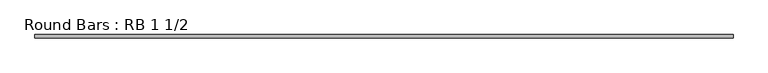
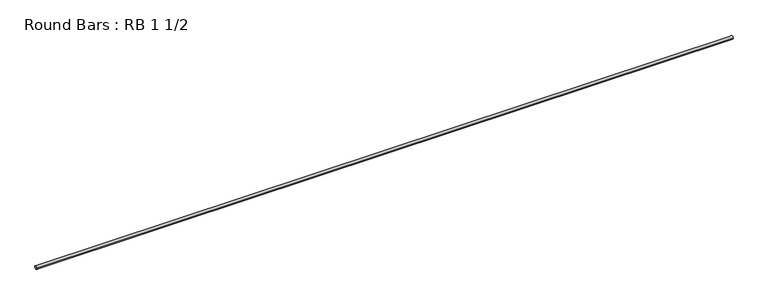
"""IFC4 building model written with IfcOpenShell, lengths in millimetres: member geometry, Round Bars : RB 1 1/2."""

import ifcopenshell
import ifcopenshell.guid

model = None  # the IFC model being written
_history = None  # IfcOwnerHistory: only IFC2X3 demands one
_inside = {}  # id of a spatial element -> (the spatial element, [elements in it])
_under = {}  # id of a project, library or spatial element -> (it, [spatial elements below it])
_declared = {}  # id of a project -> (the project, [libraries it declares])
_typed = {}  # id of a type object -> (the type object, [elements of that type])
_made_of = {}  # id of a material, layer set ... -> (it, [elements and type objects made of it])


def new_model(schema):
    """Start an empty IFC model of exactly this schema.

    Asked for "IFC4X3", IfcOpenShell would pick the latest addendum, in which some entities
    have other attributes; the version numbers below select the first issue.
    IFC2X3 requires an IfcOwnerHistory on every rooted entity: one is made here for all.
    """
    global model, _history
    if schema == "IFC4X3":
        model = ifcopenshell.file(schema_version=(4, 3, 0, 0))
    else:
        model = ifcopenshell.file(schema=schema)
    _inside.clear()
    _under.clear()
    _declared.clear()
    _typed.clear()
    _made_of.clear()
    _history = None
    if model.schema == "IFC2X3":
        org = make("IfcOrganization", Name="unknown")
        user = make(
            "IfcPersonAndOrganization",
            ThePerson=make("IfcPerson", FamilyName="unknown"),
            TheOrganization=org,
        )
        app = make(
            "IfcApplication",
            ApplicationDeveloper=org,
            Version="unknown",
            ApplicationFullName="unknown",
            ApplicationIdentifier="unknown",
        )
        _history = make(
            "IfcOwnerHistory",
            OwningUser=user,
            OwningApplication=app,
            ChangeAction="ADDED",
            CreationDate=0,
        )
    return model


def make(cls, **values):
    """One entity of the class cls with the attributes given. An attribute that is None is left unset."""
    return model.create_entity(
        cls, **{name: value for name, value in values.items() if value is not None}
    )


def rooted(cls, **values):
    """An entity with a GlobalId (a new one), such as an element, a storey or a relation."""
    return make(cls, GlobalId=ifcopenshell.guid.new(), OwnerHistory=_history, **values)


def si_unit(unit_type, name, prefix=None):
    """IfcSIUnit, for example si_unit("LENGTHUNIT", "METRE", prefix="MILLI")."""
    return make("IfcSIUnit", UnitType=unit_type, Prefix=prefix, Name=name)


def assignment(units):
    """IfcUnitAssignment: the units of a project."""
    return None if units is None else make("IfcUnitAssignment", Units=units)


def point(xyz):
    """IfcCartesianPoint."""
    return None if xyz is None else make("IfcCartesianPoint", Coordinates=xyz)


def direction(xyz):
    """IfcDirection."""
    return None if xyz is None else make("IfcDirection", DirectionRatios=xyz)


def frame(location, z_axis=None, x_axis=None):
    """IfcAxis2Placement3D, a coordinate frame: its origin and axes. An axis left out is left unset."""
    return make(
        "IfcAxis2Placement3D",
        Location=point(location),
        Axis=direction(z_axis),
        RefDirection=direction(x_axis),
    )


def frame_2d(location, x_axis=None):
    """IfcAxis2Placement2D, a coordinate frame in the plane: its origin and x axis."""
    return make(
        "IfcAxis2Placement2D", Location=point(location), RefDirection=direction(x_axis)
    )


def origin():
    """The frame at (0, 0, 0) with its axes left unset."""
    return frame((0.0, 0.0, 0.0))


def origin_2d():
    """The frame at (0, 0) in the plane with its x axis left unset."""
    return frame_2d((0.0, 0.0))


def place(relative_to, where):
    """IfcLocalPlacement: puts the frame where relative to a parent placement (None: the world)."""
    return make(
        "IfcLocalPlacement", PlacementRelTo=relative_to, RelativePlacement=where
    )


def context(
    kind, dimensions, precision=None, world=None, true_north=None, identifier=None
):
    """IfcGeometricRepresentationContext, for example the 3D "Model" context."""
    return make(
        "IfcGeometricRepresentationContext",
        ContextIdentifier=identifier,
        ContextType=kind,
        CoordinateSpaceDimension=dimensions,
        Precision=precision,
        WorldCoordinateSystem=world,
        TrueNorth=true_north,
    )


def project(units=None, contexts=None):
    """IfcProject with its units and contexts."""
    return rooted(
        "IfcProject",
        Name="project",
        RepresentationContexts=contexts,
        UnitsInContext=assignment(units),
    )


def spatial(cls, under=None, at=None, **own):
    """A site, building, storey or space (cls), placed at a placement, below another one or the project."""
    s = rooted(cls, ObjectPlacement=at, **own)
    if under is not None:
        _under.setdefault(under.id(), (under, []))[1].append(s)
    return s


def circle_curve(where, radius):
    """IfcCircle in the frame where."""
    return make("IfcCircle", Position=where, Radius=radius)


def trimmed(basis, trim1, trim2, sense, master):
    """IfcTrimmedCurve: the piece of a basis curve between two trims."""
    return make(
        "IfcTrimmedCurve",
        BasisCurve=basis,
        Trim1=trim1,
        Trim2=trim2,
        SenseAgreement=sense,
        MasterRepresentation=master,
    )


def segment(curve, same_sense, transition):
    """IfcCompositeCurveSegment."""
    return make(
        "IfcCompositeCurveSegment",
        Transition=transition,
        SameSense=same_sense,
        ParentCurve=curve,
    )


def composite_curve(segments, self_intersect=None):
    """IfcCompositeCurve: segments joined end to end."""
    return make("IfcCompositeCurve", Segments=segments, SelfIntersect=self_intersect)


def outline(outer, holes=None, kind="AREA"):
    """IfcArbitraryClosedProfileDef: a profile drawn as a closed curve; with holes, ...WithVoids."""
    if holes is None:
        return make("IfcArbitraryClosedProfileDef", ProfileType=kind, OuterCurve=outer)
    return make(
        "IfcArbitraryProfileDefWithVoids",
        ProfileType=kind,
        OuterCurve=outer,
        InnerCurves=holes,
    )


def extrude(swept, where, along, depth):
    """IfcExtrudedAreaSolid: the profile swept, set in the frame where, extruded along a direction by depth."""
    return make(
        "IfcExtrudedAreaSolid",
        SweptArea=swept,
        Position=where,
        ExtrudedDirection=direction(along),
        Depth=depth,
    )


def shape(context_of_items, identifier, shape_type, items):
    """IfcShapeRepresentation: the items that make up one representation, for example the "Body"."""
    return make(
        "IfcShapeRepresentation",
        ContextOfItems=context_of_items,
        RepresentationIdentifier=identifier,
        RepresentationType=shape_type,
        Items=items,
    )


def source(mapping_origin, context_of_items, identifier, shape_type, items):
    """IfcRepresentationMap: a shape defined once, which mapped items show again and again."""
    return make(
        "IfcRepresentationMap",
        MappingOrigin=mapping_origin,
        MappedRepresentation=shape(context_of_items, identifier, shape_type, items),
    )


def transform(
    local_origin,
    x_axis=None,
    y_axis=None,
    z_axis=None,
    scale=None,
    scale2=None,
    scale3=None,
    uniform=True,
):
    """IfcCartesianTransformationOperator3D, or its non-uniform kind. x_axis, y_axis, z_axis: its Axis1, 2, 3."""
    if uniform:
        return make(
            "IfcCartesianTransformationOperator3D",
            Axis1=direction(x_axis),
            Axis2=direction(y_axis),
            LocalOrigin=point(local_origin),
            Scale=scale,
            Axis3=direction(z_axis),
        )
    return make(
        "IfcCartesianTransformationOperator3DnonUniform",
        Axis1=direction(x_axis),
        Axis2=direction(y_axis),
        LocalOrigin=point(local_origin),
        Scale=scale,
        Axis3=direction(z_axis),
        Scale2=scale2,
        Scale3=scale3,
    )


def mapped(mapping_source, mapping_target):
    """IfcMappedItem: shows the shape of a source again, moved by a transform."""
    return make(
        "IfcMappedItem", MappingSource=mapping_source, MappingTarget=mapping_target
    )


def made_of(thing, what):
    """Note that an element or type object is made of a material, layer set ...; save() writes the relation."""
    if what is not None:
        _made_of.setdefault(what.id(), (what, []))[1].append(thing)
    return thing


def element(
    cls,
    number,
    at=None,
    inside=None,
    cuts=None,
    type_object=None,
    material=None,
    context=None,
    identifier="Body",
    shape_type=None,
    held_by="IfcProductDefinitionShape",
    body=None,
    shapes=None,
    **own,
):
    """One element of the class cls, such as IfcWall. Its Tag is "e" and its number.

    at: its placement. inside: the storey or other place that contains it. cuts: it is an
    opening in that element (IfcRelVoidsElement). A single representation is given by context,
    identifier, shape_type and body (its items); several are given by shapes. held_by: the class
    of the entity that holds the representations. save() writes the other relations.
    """
    e = rooted(cls, Tag="e%d" % number, ObjectPlacement=at, **own)
    if body is not None:
        shapes = [shape(context, identifier, shape_type, body)]
    if shapes is not None:
        e.Representation = make(held_by, Representations=shapes)
    if inside is not None:
        _inside.setdefault(inside.id(), (inside, []))[1].append(e)
    if cuts is not None:
        rooted(
            "IfcRelVoidsElement", RelatingBuildingElement=cuts, RelatedOpeningElement=e
        )
    if type_object is not None:
        _typed.setdefault(type_object.id(), (type_object, []))[1].append(e)
    return made_of(e, material)


def aggregate(whole, parts):
    """IfcRelAggregates: a whole, such as a stair, and the parts it consists of."""
    return rooted("IfcRelAggregates", RelatingObject=whole, RelatedObjects=parts)


def save(model, path):
    """Write the relations noted so far, then the file.

    IfcRelAggregates (storeys below a building ...), IfcRelContainedInSpatialStructure (elements
    in a storey), IfcRelDefinesByType, IfcRelAssociatesMaterial and IfcRelDeclares: one each for
    every whole, place, type object, material and project.
    """
    for whole, parts in _under.values():
        aggregate(whole, parts)
    for where, things in _inside.values():
        rooted(
            "IfcRelContainedInSpatialStructure",
            RelatedElements=things,
            RelatingStructure=where,
        )
    for kind, things in _typed.values():
        rooted("IfcRelDefinesByType", RelatedObjects=things, RelatingType=kind)
    for what, things in _made_of.values():
        rooted("IfcRelAssociatesMaterial", RelatedObjects=things, RelatingMaterial=what)
    for by, libraries in _declared.values():
        rooted("IfcRelDeclares", RelatingContext=by, RelatedDefinitions=libraries)
    model.write(path)


def round_bars_rb_1_1_2_0e442d66(model_context):
    return source(origin(), model_context, "Body", "SweptSolid", [
        extrude(outline(composite_curve([segment(trimmed(circle_curve(origin_2d(), 19.05), [point((19.05, 0.0))], [point((-19.05, 0.0))], False, "CARTESIAN"), True, "CONTINUOUS"), segment(trimmed(circle_curve(origin_2d(), 19.05), [point((-19.05, 0.0))], [point((19.05, 0.0))], False, "CARTESIAN"), True, "CONTINUOUS")], self_intersect=False)), frame((-4144.0805885, 0.0, 0.0), z_axis=(1.0, 0.0, 0.0), x_axis=(0.0, 1.0, 0.0)), (0.0, 0.0, 1.0), 8230.9825998),
    ])


if __name__ == "__main__":
    model = new_model("IFC4")
    model_context = context("Model", 3, world=origin())
    ifc_project = project(units=[si_unit("LENGTHUNIT", "METRE", prefix="MILLI")], contexts=[model_context])
    site = spatial("IfcSite", under=ifc_project)
    building = spatial("IfcBuilding", under=site)
    placement = place(None, origin())
    round_bars_rb_1_1_2_shape = round_bars_rb_1_1_2_0e442d66(model_context)
    element("IfcMember", 1, ObjectType="Round Bars : RB 1 1/2", at=placement, inside=building, context=model_context, shape_type="MappedRepresentation", body=[
        mapped(round_bars_rb_1_1_2_shape, transform((0.0, 0.0, 0.0), x_axis=(1.0, 0.0, 0.0), y_axis=(0.0, 1.0, 0.0), z_axis=(0.0, 0.0, 1.0))),
    ])
    save(model, "model.ifc")
